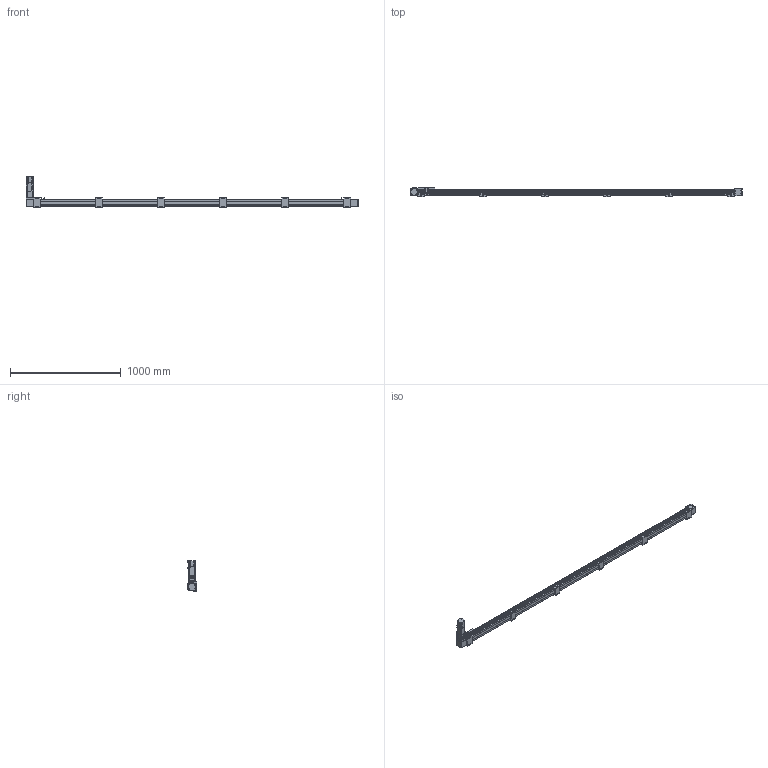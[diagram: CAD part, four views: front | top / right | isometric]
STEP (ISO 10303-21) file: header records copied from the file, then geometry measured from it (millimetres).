
FILE_DESCRIPTION(/* description */ ('STEP AP203'),/* implementation_level */ '2;1');
FILE_NAME(/* name */ 'SK60-P13-S2700-BL-T40-C1-N(0)',/* time_stamp */ '2023-04-06T03:38:10+02:00',/* author */ ('License CC BY-ND 4.0'),/* organization */ ('CADENAS'),/* preprocessor_version */ 'ST-DEVELOPER v19.3',/* originating_system */ 'PARTsolutions',/* authorisation */ ' ');
FILE_SCHEMA (('CONFIG_CONTROL_DESIGN'));
Length unit declared in the file: millimetre
Products named in the file (11): SK60-P13-S2700-BL-T40-C1-N(0); PSC140-sensor; SK60-S450_seat; SK60-S450-BL-C1_slider; SK60_body3; SK60_body6; SK60-BL_body2; T40-p1; SK60_body5; SK60_body4; SK60-S2700-BL-C1_body
Assembly tree (21 placements, depth 2):
  SK60-P13-S2700-BL-T40-C1-N(0)
    PSC140-sensor  x3
    SK60-S450_seat  x6
    SK60-S450-BL-C1_slider
    SK60_body3  x3
    SK60_body6  x2
    SK60-BL_body2  x2
    T40-p1
    SK60_body5
    SK60_body4
    SK60-S2700-BL-C1_body
Bounding box: 3000 x 90 x 278.2 mm (x, y, z)
Volume: 10807201 mm3; surface area: 1314217.5 mm2
Topology: 21 solids, 25 shells, 1010 faces, 2501 edges, 1650 vertices
Faces by surface type: plane 640, cylinder 330, cone 38, torus 2
Full cylindrical faces by diameter (mm): 2.8 x3, 3.3 x4, 4.2 x8, 4.5 x26, 4.6 x3, 4.917 x32, 5 x2, 5.478 x4, 5.5 x35, 6.5 x12, 8 x4, 8.5 x4, 9.988 x4, 10 x24, 13.556 x1, 14 x1, 14.586 x1, 19.692 x1, 38.432 x2, 43 x1, 44 x3, 47 x2, 50 x2
Entity records: 19403 total; most frequent: DIRECTION 3300, CARTESIAN_POINT 3293, ORIENTED_EDGE 3050, EDGE_CURVE 1525, AXIS2_PLACEMENT_3D 1104, LINE 1092, VECTOR 1092, VERTEX_POINT 1077
